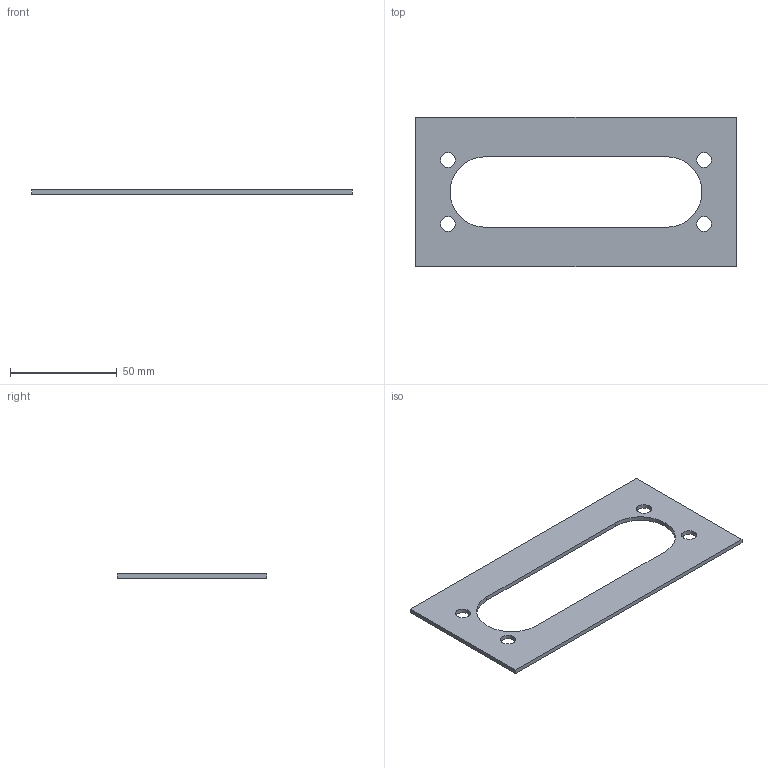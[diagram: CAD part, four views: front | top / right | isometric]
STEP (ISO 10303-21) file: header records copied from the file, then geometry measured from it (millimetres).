
FILE_DESCRIPTION(('STEP AP214'),'1');
FILE_NAME('FL 13 cut-out Rev A.step','2021-06-09T19:38:58',(' '),(' '),'Spatial InterOp 3D',' ',' ');
FILE_SCHEMA(('AUTOMOTIVE_DESIGN { 1 0 10303 214 1 1 1 1 }'));
Length unit declared in the file: millimetre
Products named in the file (1): FL 13 cut_out
Bounding box: 150 x 70 x 2 mm (x, y, z)
Volume: 13371.5 mm3; surface area: 14974.8 mm2
Topology: 1 solids, 1 shells, 16 faces, 44 edges, 30 vertices
Faces by surface type: plane 8, cylinder 8
Full cylindrical faces by diameter (mm): 7 x4
Entity records: 646 total; most frequent: DIRECTION 88, CARTESIAN_POINT 83, ORIENTED_EDGE 76, EDGE_CURVE 38, AXIS2_PLACEMENT_3D 33, EDGE_LOOP 30, VERTEX_POINT 28, LINE 22
